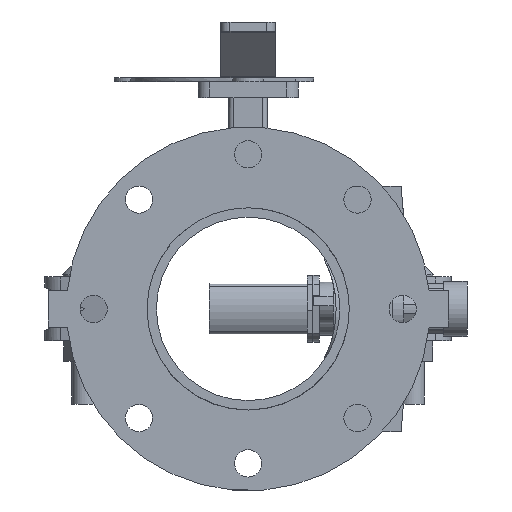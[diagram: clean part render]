
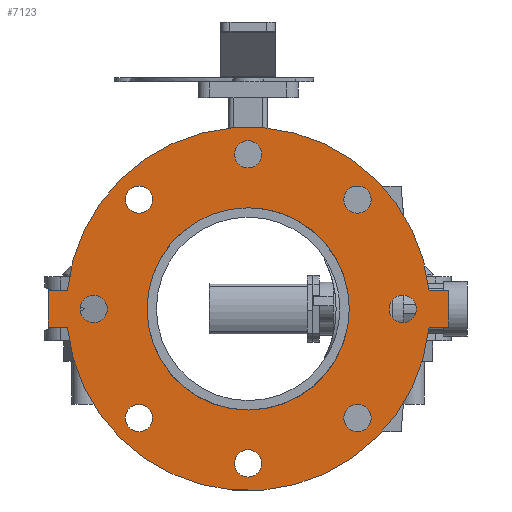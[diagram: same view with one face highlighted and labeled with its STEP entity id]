
A CAD part, front view. The second image highlights one B-rep face of the part: STEP entity #7123.
In plain terms, the highlighted planar face has unit normal (0, -1, 0) as drawn and (0, 0, -1) by its records, which use the part's own axes.
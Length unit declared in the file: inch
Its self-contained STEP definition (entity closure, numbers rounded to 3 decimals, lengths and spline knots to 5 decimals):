
#157=FACE_BOUND('',#878,.T.);
#158=FACE_BOUND('',#879,.T.);
#159=FACE_BOUND('',#880,.T.);
#160=FACE_BOUND('',#881,.T.);
#161=FACE_BOUND('',#882,.T.);
#162=FACE_BOUND('',#883,.T.);
#163=FACE_BOUND('',#884,.T.);
#164=FACE_BOUND('',#885,.T.);
#165=FACE_BOUND('',#886,.T.);
#249=PLANE('',#7711);
#484=FACE_OUTER_BOUND('',#877,.T.);
#877=EDGE_LOOP('',(#4575,#4576,#4577,#4578,#4579,#4580,#4581,#4582));
#878=EDGE_LOOP('',(#4583));
#879=EDGE_LOOP('',(#4584));
#880=EDGE_LOOP('',(#4585));
#881=EDGE_LOOP('',(#4586));
#882=EDGE_LOOP('',(#4587));
#883=EDGE_LOOP('',(#4588));
#884=EDGE_LOOP('',(#4589));
#885=EDGE_LOOP('',(#4590));
#886=EDGE_LOOP('',(#4591,#4592));
#1362=LINE('',#10786,#1909);
#1363=LINE('',#10788,#1910);
#1364=LINE('',#10790,#1911);
#1365=LINE('',#10794,#1912);
#1366=LINE('',#10796,#1913);
#1367=LINE('',#10797,#1914);
#1909=VECTOR('',#8582,0.3937);
#1910=VECTOR('',#8583,0.3937);
#1911=VECTOR('',#8584,0.3937);
#1912=VECTOR('',#8587,0.3937);
#1913=VECTOR('',#8588,0.3937);
#1914=VECTOR('',#8589,0.3937);
#2449=CIRCLE('',#7689,0.375);
#2451=CIRCLE('',#7692,0.375);
#2453=CIRCLE('',#7695,0.375);
#2455=CIRCLE('',#7698,0.375);
#2457=CIRCLE('',#7701,0.375);
#2459=CIRCLE('',#7704,0.375);
#2461=CIRCLE('',#7707,0.375);
#2463=CIRCLE('',#7710,0.375);
#2464=CIRCLE('',#7712,5.);
#2465=CIRCLE('',#7713,5.);
#2466=CIRCLE('',#7714,2.7815);
#2467=CIRCLE('',#7715,2.7815);
#2849=VERTEX_POINT('',#10736);
#2851=VERTEX_POINT('',#10742);
#2853=VERTEX_POINT('',#10748);
#2855=VERTEX_POINT('',#10754);
#2857=VERTEX_POINT('',#10760);
#2859=VERTEX_POINT('',#10766);
#2861=VERTEX_POINT('',#10772);
#2863=VERTEX_POINT('',#10778);
#2864=VERTEX_POINT('',#10782);
#2865=VERTEX_POINT('',#10783);
#2866=VERTEX_POINT('',#10785);
#2867=VERTEX_POINT('',#10787);
#2868=VERTEX_POINT('',#10789);
#2869=VERTEX_POINT('',#10791);
#2870=VERTEX_POINT('',#10793);
#2871=VERTEX_POINT('',#10795);
#2872=VERTEX_POINT('',#10798);
#2873=VERTEX_POINT('',#10799);
#3530=EDGE_CURVE('',#2849,#2849,#2449,.T.);
#3533=EDGE_CURVE('',#2851,#2851,#2451,.T.);
#3536=EDGE_CURVE('',#2853,#2853,#2453,.T.);
#3539=EDGE_CURVE('',#2855,#2855,#2455,.T.);
#3542=EDGE_CURVE('',#2857,#2857,#2457,.T.);
#3545=EDGE_CURVE('',#2859,#2859,#2459,.T.);
#3548=EDGE_CURVE('',#2861,#2861,#2461,.T.);
#3551=EDGE_CURVE('',#2863,#2863,#2463,.T.);
#3552=EDGE_CURVE('',#2864,#2865,#2464,.T.);
#3553=EDGE_CURVE('',#2865,#2866,#1362,.T.);
#3554=EDGE_CURVE('',#2866,#2867,#1363,.T.);
#3555=EDGE_CURVE('',#2867,#2868,#1364,.T.);
#3556=EDGE_CURVE('',#2868,#2869,#2465,.T.);
#3557=EDGE_CURVE('',#2869,#2870,#1365,.T.);
#3558=EDGE_CURVE('',#2870,#2871,#1366,.T.);
#3559=EDGE_CURVE('',#2871,#2864,#1367,.T.);
#3560=EDGE_CURVE('',#2872,#2873,#2466,.T.);
#3561=EDGE_CURVE('',#2873,#2872,#2467,.T.);
#4575=ORIENTED_EDGE('',*,*,#3552,.T.);
#4576=ORIENTED_EDGE('',*,*,#3553,.T.);
#4577=ORIENTED_EDGE('',*,*,#3554,.T.);
#4578=ORIENTED_EDGE('',*,*,#3555,.T.);
#4579=ORIENTED_EDGE('',*,*,#3556,.T.);
#4580=ORIENTED_EDGE('',*,*,#3557,.T.);
#4581=ORIENTED_EDGE('',*,*,#3558,.T.);
#4582=ORIENTED_EDGE('',*,*,#3559,.T.);
#4583=ORIENTED_EDGE('',*,*,#3530,.T.);
#4584=ORIENTED_EDGE('',*,*,#3533,.T.);
#4585=ORIENTED_EDGE('',*,*,#3536,.T.);
#4586=ORIENTED_EDGE('',*,*,#3539,.T.);
#4587=ORIENTED_EDGE('',*,*,#3542,.T.);
#4588=ORIENTED_EDGE('',*,*,#3545,.T.);
#4589=ORIENTED_EDGE('',*,*,#3548,.T.);
#4590=ORIENTED_EDGE('',*,*,#3551,.T.);
#4591=ORIENTED_EDGE('',*,*,#3560,.T.);
#4592=ORIENTED_EDGE('',*,*,#3561,.T.);
#7123=ADVANCED_FACE('',(#484,#157,#158,#159,#160,#161,#162,#163,#164,#165),
#249,.T.);
#7689=AXIS2_PLACEMENT_3D('',#10738,#8527,#8528);
#7692=AXIS2_PLACEMENT_3D('',#10744,#8534,#8535);
#7695=AXIS2_PLACEMENT_3D('',#10750,#8541,#8542);
#7698=AXIS2_PLACEMENT_3D('',#10756,#8548,#8549);
#7701=AXIS2_PLACEMENT_3D('',#10762,#8555,#8556);
#7704=AXIS2_PLACEMENT_3D('',#10768,#8562,#8563);
#7707=AXIS2_PLACEMENT_3D('',#10774,#8569,#8570);
#7710=AXIS2_PLACEMENT_3D('',#10780,#8576,#8577);
#7711=AXIS2_PLACEMENT_3D('',#10781,#8578,#8579);
#7712=AXIS2_PLACEMENT_3D('',#10784,#8580,#8581);
#7713=AXIS2_PLACEMENT_3D('',#10792,#8585,#8586);
#7714=AXIS2_PLACEMENT_3D('',#10800,#8590,#8591);
#7715=AXIS2_PLACEMENT_3D('',#10801,#8592,#8593);
#8527=DIRECTION('center_axis',(0.,0.,1.));
#8528=DIRECTION('ref_axis',(-0.707,0.707,0.));
#8534=DIRECTION('center_axis',(0.,0.,1.));
#8535=DIRECTION('ref_axis',(0.,1.,0.));
#8541=DIRECTION('center_axis',(0.,0.,1.));
#8542=DIRECTION('ref_axis',(0.707,0.707,0.));
#8548=DIRECTION('center_axis',(0.,0.,1.));
#8549=DIRECTION('ref_axis',(1.,0.,0.));
#8555=DIRECTION('center_axis',(0.,0.,1.));
#8556=DIRECTION('ref_axis',(0.707,-0.707,0.));
#8562=DIRECTION('center_axis',(0.,0.,1.));
#8563=DIRECTION('ref_axis',(0.,-1.,0.));
#8569=DIRECTION('center_axis',(0.,0.,1.));
#8570=DIRECTION('ref_axis',(-0.707,-0.707,0.));
#8576=DIRECTION('center_axis',(0.,0.,1.));
#8577=DIRECTION('ref_axis',(-1.,0.,0.));
#8578=DIRECTION('center_axis',(0.,0.,-1.));
#8579=DIRECTION('ref_axis',(-1.,0.,0.));
#8580=DIRECTION('center_axis',(0.,0.,-1.));
#8581=DIRECTION('ref_axis',(-1.,0.,0.));
#8582=DIRECTION('',(0.,1.,0.));
#8583=DIRECTION('',(1.,0.,0.));
#8584=DIRECTION('',(0.,-1.,0.));
#8585=DIRECTION('center_axis',(0.,0.,-1.));
#8586=DIRECTION('ref_axis',(-1.,0.,0.));
#8587=DIRECTION('',(0.,-1.,0.));
#8588=DIRECTION('',(-1.,0.,0.));
#8589=DIRECTION('',(0.,1.,0.));
#8590=DIRECTION('center_axis',(0.,0.,1.));
#8591=DIRECTION('ref_axis',(-1.,0.,0.));
#8592=DIRECTION('center_axis',(0.,0.,1.));
#8593=DIRECTION('ref_axis',(-1.,0.,0.));
#10736=CARTESIAN_POINT('',(-2.74004,2.74004,-0.5));
#10738=CARTESIAN_POINT('Origin',(-3.0052,3.0052,-0.5));
#10742=CARTESIAN_POINT('',(0.,3.875,-0.5));
#10744=CARTESIAN_POINT('Origin',(0.,4.25,-0.5));
#10748=CARTESIAN_POINT('',(2.74004,2.74004,-0.5));
#10750=CARTESIAN_POINT('Origin',(3.0052,3.0052,-0.5));
#10754=CARTESIAN_POINT('',(3.875,0.,-0.5));
#10756=CARTESIAN_POINT('Origin',(4.25,0.,-0.5));
#10760=CARTESIAN_POINT('',(2.74004,-2.74004,-0.5));
#10762=CARTESIAN_POINT('Origin',(3.0052,-3.0052,-0.5));
#10766=CARTESIAN_POINT('',(0.,-3.875,-0.5));
#10768=CARTESIAN_POINT('Origin',(0.,-4.25,-0.5));
#10772=CARTESIAN_POINT('',(-2.74004,-2.74004,-0.5));
#10774=CARTESIAN_POINT('Origin',(-3.0052,-3.0052,-0.5));
#10778=CARTESIAN_POINT('',(-3.875,0.,-0.5));
#10780=CARTESIAN_POINT('Origin',(-4.25,0.,-0.5));
#10781=CARTESIAN_POINT('Origin',(0.,0.,-0.5));
#10782=CARTESIAN_POINT('',(-0.5,-4.97494,-0.5));
#10783=CARTESIAN_POINT('',(-0.5,4.97494,-0.5));
#10784=CARTESIAN_POINT('Origin',(0.,0.,-0.5));
#10785=CARTESIAN_POINT('',(-0.5,5.5,-0.5));
#10786=CARTESIAN_POINT('',(-0.5,-5.5,-0.5));
#10787=CARTESIAN_POINT('',(0.5,5.5,-0.5));
#10788=CARTESIAN_POINT('',(-0.5,5.5,-0.5));
#10789=CARTESIAN_POINT('',(0.5,4.97494,-0.5));
#10790=CARTESIAN_POINT('',(0.5,5.5,-0.5));
#10791=CARTESIAN_POINT('',(0.5,-4.97494,-0.5));
#10792=CARTESIAN_POINT('Origin',(0.,0.,-0.5));
#10793=CARTESIAN_POINT('',(0.5,-5.5,-0.5));
#10794=CARTESIAN_POINT('',(0.5,5.5,-0.5));
#10795=CARTESIAN_POINT('',(-0.5,-5.5,-0.5));
#10796=CARTESIAN_POINT('',(0.5,-5.5,-0.5));
#10797=CARTESIAN_POINT('',(-0.5,-5.5,-0.5));
#10798=CARTESIAN_POINT('',(0.5,2.73619,-0.5));
#10799=CARTESIAN_POINT('',(2.7815,0.,-0.5));
#10800=CARTESIAN_POINT('Origin',(0.,0.,-0.5));
#10801=CARTESIAN_POINT('Origin',(0.,0.,-0.5));
